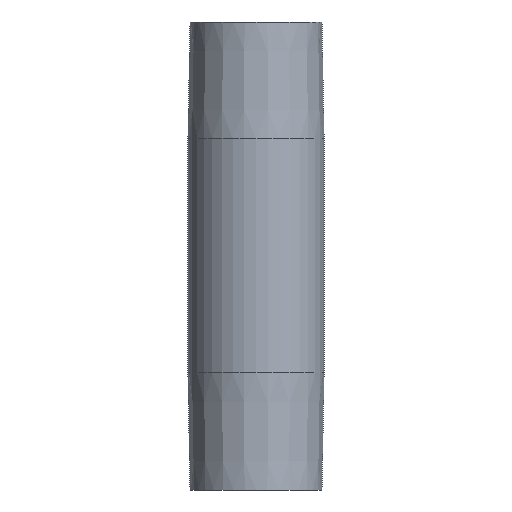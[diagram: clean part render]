
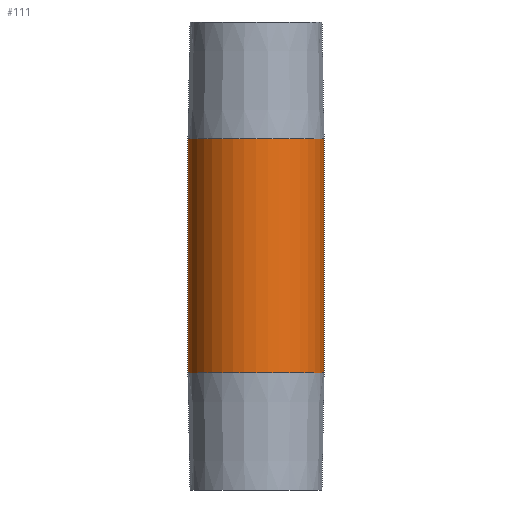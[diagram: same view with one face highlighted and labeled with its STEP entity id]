
A CAD part, front view. The second image highlights one B-rep face of the part: STEP entity #111.
In plain terms, the highlighted cylindrical face has radius 16 mm (diameter 32 mm), a partial arc.
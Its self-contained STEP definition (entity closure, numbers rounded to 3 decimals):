
#6 = VERTEX_POINT ( 'NONE', #312 ) ;
#26 = CARTESIAN_POINT ( 'NONE',  ( 0., 0., 55. ) ) ;
#30 = VECTOR ( 'NONE', #401, 1000. ) ;
#35 = CARTESIAN_POINT ( 'NONE',  ( -16., 0., 55. ) ) ;
#48 = LINE ( 'NONE', #393, #291 ) ;
#49 = FACE_OUTER_BOUND ( 'NONE', #344, .T. ) ;
#65 = CARTESIAN_POINT ( 'NONE',  ( 16., 0., 27.5 ) ) ;
#71 = DIRECTION ( 'NONE',  ( 1., 0., 0. ) ) ;
#75 = DIRECTION ( 'NONE',  ( 0., 0., 1. ) ) ;
#80 = VERTEX_POINT ( 'NONE', #459 ) ;
#102 = DIRECTION ( 'NONE',  ( 0., 0., 1. ) ) ;
#107 = ORIENTED_EDGE ( 'NONE', *, *, #352, .T. ) ;
#111 = ADVANCED_FACE ( 'NONE', ( #49 ), #252, .T. ) ;
#119 = AXIS2_PLACEMENT_3D ( 'NONE', #26, #428, #258 ) ;
#125 = ORIENTED_EDGE ( 'NONE', *, *, #445, .F. ) ;
#149 = AXIS2_PLACEMENT_3D ( 'NONE', #224, #102, #71 ) ;
#168 = CIRCLE ( 'NONE', #449, 16. ) ;
#178 = CARTESIAN_POINT ( 'NONE',  ( 16., 0., -27.5 ) ) ;
#180 = ORIENTED_EDGE ( 'NONE', *, *, #458, .F. ) ;
#201 = CARTESIAN_POINT ( 'NONE',  ( 0., 0., 27.5 ) ) ;
#205 = EDGE_CURVE ( 'NONE', #6, #80, #474, .T. ) ;
#224 = CARTESIAN_POINT ( 'NONE',  ( 0., 0., -27.5 ) ) ;
#252 = CYLINDRICAL_SURFACE ( 'NONE', #119, 16. ) ;
#258 = DIRECTION ( 'NONE',  ( -1., 0., 0. ) ) ;
#291 = VECTOR ( 'NONE', #319, 1000. ) ;
#312 = CARTESIAN_POINT ( 'NONE',  ( -16., 0., 27.5 ) ) ;
#319 = DIRECTION ( 'NONE',  ( 0., 0., -1. ) ) ;
#344 = EDGE_LOOP ( 'NONE', ( #125, #180, #419, #107 ) ) ;
#352 = EDGE_CURVE ( 'NONE', #80, #355, #432, .T. ) ;
#355 = VERTEX_POINT ( 'NONE', #178 ) ;
#369 = DIRECTION ( 'NONE',  ( 1., 0., 0. ) ) ;
#372 = VERTEX_POINT ( 'NONE', #65 ) ;
#393 = CARTESIAN_POINT ( 'NONE',  ( 16., 0., 55. ) ) ;
#401 = DIRECTION ( 'NONE',  ( 0., 0., -1. ) ) ;
#419 = ORIENTED_EDGE ( 'NONE', *, *, #205, .T. ) ;
#428 = DIRECTION ( 'NONE',  ( 0., 0., -1. ) ) ;
#432 = CIRCLE ( 'NONE', #149, 16. ) ;
#445 = EDGE_CURVE ( 'NONE', #372, #355, #48, .T. ) ;
#449 = AXIS2_PLACEMENT_3D ( 'NONE', #201, #75, #369 ) ;
#458 = EDGE_CURVE ( 'NONE', #6, #372, #168, .T. ) ;
#459 = CARTESIAN_POINT ( 'NONE',  ( -16., 0., -27.5 ) ) ;
#474 = LINE ( 'NONE', #35, #30 ) ;
